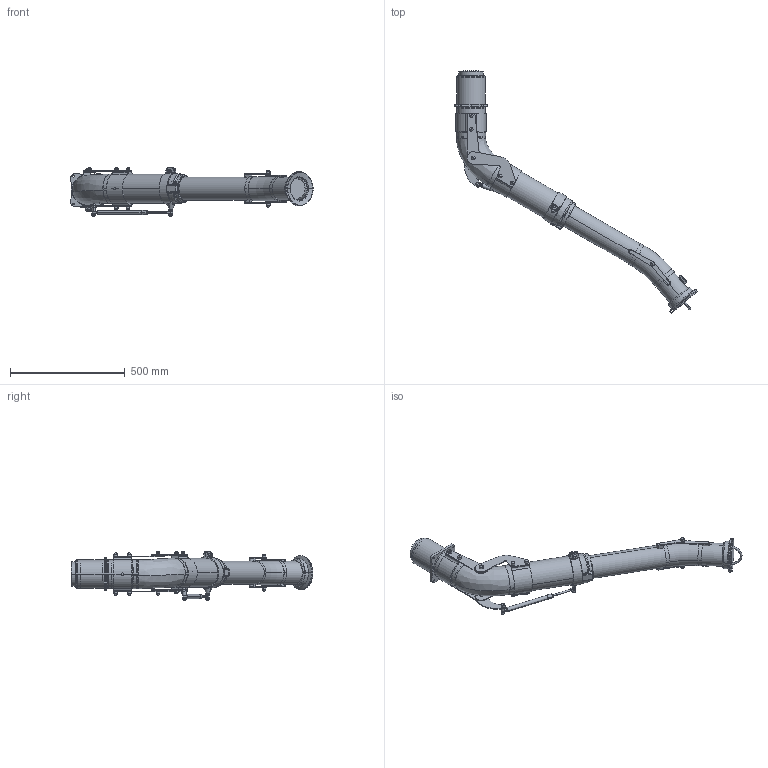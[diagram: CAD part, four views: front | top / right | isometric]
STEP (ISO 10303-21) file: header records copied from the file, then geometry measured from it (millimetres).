
FILE_DESCRIPTION((''),'2;1');
FILE_NAME('109410-REF','2020-04-21T07:31:16',('Tomas Bellgran'),(''),'CREO PARAMETRIC BY PTC INC, 2018260','CREO PARAMETRIC BY PTC INC, 2018260','');
FILE_SCHEMA(('AUTOMOTIVE_DESIGN { 1 0 10303 214 1 1 1 1 }'));
Length unit declared in the file: millimetre
Products named in the file (47): 106-308; 100935; 100940; 106-301; 106-306; 100945; 100252; 106-310; 106-411_LIGHT; 106-408-03; 106-408-02; SCREW_GASSPRING; 109549; 106-010; 106-556; 106-408-01; 106-415-01; 106-415-02; 106-415; 9900420; 106-706; CLAMP_DIST; 106-030; 106-557; 106-705; 106-020; 109472; 106-398_AF0; 121719; 121648; 121612; 117041_AF0; 106-833; 117031; 106-821; 106-823; 106-040; 106-822; 106-824; 109572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
Assembly tree (73 placements, depth 4):
  109410-REF
    106-010
      106-310
        106-308
        100935  x2
        100940  x3
        106-301
        106-306
        100945
        100252
      106-411_LIGHT
      106-408-03
      106-408-02
      SCREW_GASSPRING
      109549  x5
    106-030
      106-556
      106-411_LIGHT
      106-408-01  x2
      106-415
        106-415-01
        106-415-02
      9900420
      109549  x5
      106-706
      CLAMP_DIST
    106-020
      106-557
      106-705
    109472  x2
    106-040
      106-398_AF0
      121612
        121719
        121648
      117041_AF0
      106-833
      117031
      106-821  x2
      106-823  x2
    106-822  x2
    106-824  x2
    109572  x2
    109440_AF45
    109400_AF1
    126107_AF13
      126107_TUBE-REF
      126107_ROD-REF
      109948  x2
    109549  x6
Bounding box: 1054.73 x 1053.55 x 213.5 mm (x, y, z)
Volume: 21969145.6 mm3; surface area: 1565535.2 mm2
Topology: 65 solids, 65 shells, 957 faces, 2253 edges, 1417 vertices
Faces by surface type: plane 382, cylinder 306, cone 114, sphere 66, bspline 62, torus 20, extrusion 7
Entity records: 49078 total; most frequent: CARTESIAN_POINT 25952, DIRECTION 3144, ORIENTED_EDGE 2744, PRESENTATION_STYLE_ASSIGNMENT 1655, STYLED_ITEM 1637, EDGE_CURVE 1372, AXIS2_PLACEMENT_3D 1271, CURVE_STYLE 1238
